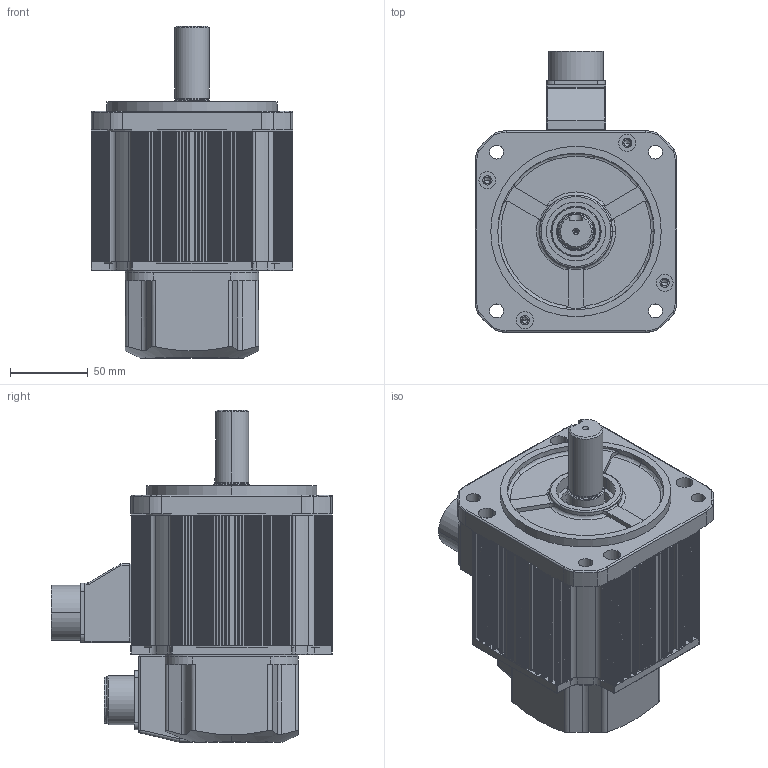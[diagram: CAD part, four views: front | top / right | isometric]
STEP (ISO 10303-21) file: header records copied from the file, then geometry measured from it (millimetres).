
FILE_DESCRIPTION (( 'STEP AP214' ), '1' );
FILE_NAME ('KAND-10B¡à1N2.STEP', '2026-09-12T01:36:00', ( '' ), ( '' ), 'SwSTEP 2.0', 'SolidWorks 2023', '' );
FILE_SCHEMA (( 'AUTOMOTIVE_DESIGN' ));
Length unit declared in the file: millimetre
Products named in the file (11): 1005052200 ENCODER COVER; □130-84mm; Ø22-KEY8X41; □130 FLANGE; MS3102A 20-29P; 10050579 CONNECTOR BOX_MS20; 10050511 RUBBER SEAL_MS20; □130 BRACKET_BR; KAND-10B□1N2; MS3102A 20_표준; 10050523 GASKET_돌출형
Assembly tree (10 placements, depth 2):
  KAND-10B□1N2
    □130-84mm
    □130 FLANGE
    □130 BRACKET_BR
    1005052200 ENCODER COVER
    10050523 GASKET_돌출형
    10050579 CONNECTOR BOX_MS20
    10050511 RUBBER SEAL_MS20
    MS3102A 20-29P
    MS3102A 20_표준
    Ø22-KEY8X41
Bounding box: 130 x 181.75 x 214.2 mm (x, y, z)
Volume: 595293 mm3; surface area: 308853.1 mm2
Topology: 10 solids, 10 shells, 2467 faces, 6843 edges, 4423 vertices
Faces by surface type: plane 1163, cylinder 970, torus 185, bspline 83, cone 56, sphere 10
Entity records: 82901 total; most frequent: CARTESIAN_POINT 18568, ORIENTED_EDGE 13558, DIRECTION 13550, EDGE_CURVE 6779, AXIS2_PLACEMENT_3D 4761, VERTEX_POINT 4423, VECTOR 4028, LINE 4028
